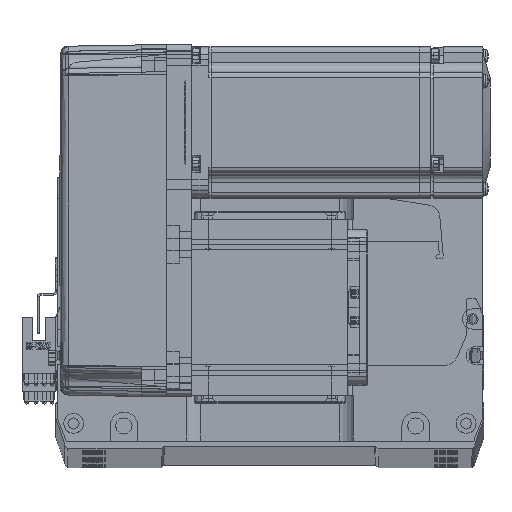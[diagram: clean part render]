
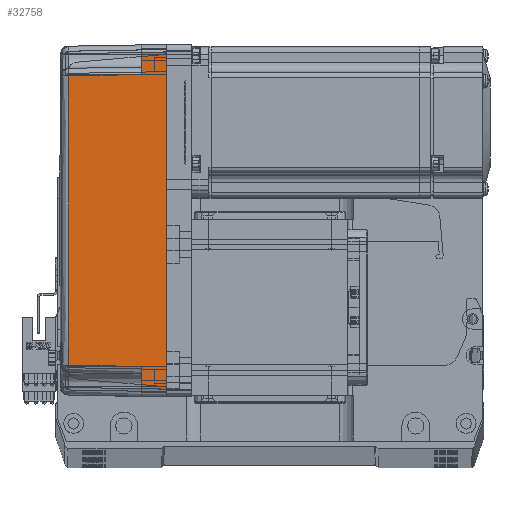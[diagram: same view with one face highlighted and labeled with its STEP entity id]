
A CAD part, top view. The second image highlights one B-rep face of the part: STEP entity #32758.
In plain terms, the highlighted planar face has unit normal (-0.018, 0, 1) as drawn and (0, 1, 0.017) by its records, which use the part's own axes.
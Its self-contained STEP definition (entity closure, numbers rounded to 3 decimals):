
#3345 = ORIENTED_EDGE ( 'NONE', *, *, #25165, .T. ) ;
#3700 = LINE ( 'NONE', #42712, #20328 ) ;
#5148 = DIRECTION ( 'NONE',  ( -0.017, -0.017, 1. ) ) ;
#5176 = CARTESIAN_POINT ( 'NONE',  ( 58., 35.825, 10. ) ) ;
#6605 = PLANE ( 'NONE',  #68084 ) ;
#8268 = B_SPLINE_CURVE_WITH_KNOTS ( 'NONE', 3,
 ( #73212, #48809, #14227, #37987 ),
 .UNSPECIFIED., .F., .F.,
 ( 4, 4 ),
 ( 0., 1. ),
 .UNSPECIFIED. ) ;
#8873 = EDGE_LOOP ( 'NONE', ( #3345, #42538, #64595, #26320, #39875, #65071, #28899, #18085 ) ) ;
#11654 = LINE ( 'NONE', #38480, #57750 ) ;
#12622 = EDGE_CURVE ( 'NONE', #64589, #55635, #11654, .T. ) ;
#14227 = CARTESIAN_POINT ( 'NONE',  ( 19.165, 35.316, 39.181 ) ) ;
#14342 = CARTESIAN_POINT ( 'NONE',  ( 70., 35.825, 10. ) ) ;
#14378 = FACE_OUTER_BOUND ( 'NONE', #8873, .T. ) ;
#14812 = VECTOR ( 'NONE', #54973, 1000. ) ;
#16730 = VECTOR ( 'NONE', #5148, 1000. ) ;
#17638 = LINE ( 'NONE', #75728, #16730 ) ;
#17791 = VECTOR ( 'NONE', #47851, 1000. ) ;
#18085 = ORIENTED_EDGE ( 'NONE', *, *, #30427, .F. ) ;
#18233 = EDGE_CURVE ( 'NONE', #37158, #40426, #17638, .T. ) ;
#18256 = CARTESIAN_POINT ( 'NONE',  ( 70., 36., 0. ) ) ;
#19115 = CARTESIAN_POINT ( 'NONE',  ( -66.826, 35.825, 10. ) ) ;
#19819 = VERTEX_POINT ( 'NONE', #66847 ) ;
#20328 = VECTOR ( 'NONE', #42196, 1000. ) ;
#25165 = EDGE_CURVE ( 'NONE', #19819, #45759, #44643, .T. ) ;
#26320 = ORIENTED_EDGE ( 'NONE', *, *, #50767, .T. ) ;
#28899 = ORIENTED_EDGE ( 'NONE', *, *, #18233, .F. ) ;
#29361 = DIRECTION ( 'NONE',  ( 0., -0.017, 1. ) ) ;
#29547 = EDGE_CURVE ( 'NONE', #75620, #40426, #61801, .T. ) ;
#30427 = EDGE_CURVE ( 'NONE', #19819, #37158, #3700, .T. ) ;
#30521 = LINE ( 'NONE', #31264, #14812 ) ;
#31264 = CARTESIAN_POINT ( 'NONE',  ( 57.495, 35.32, 38.985 ) ) ;
#31332 = CARTESIAN_POINT ( 'NONE',  ( -58., 35.825, 10. ) ) ;
#32758 = ADVANCED_FACE ( 'NONE', ( #14378 ), #6605, .T. ) ;
#33448 = CARTESIAN_POINT ( 'NONE',  ( -57.495, 35.32, 38.985 ) ) ;
#37158 = VERTEX_POINT ( 'NONE', #44306 ) ;
#37987 = CARTESIAN_POINT ( 'NONE',  ( 57.495, 35.32, 38.985 ) ) ;
#38480 = CARTESIAN_POINT ( 'NONE',  ( -58., 35.825, 10. ) ) ;
#39626 = VERTEX_POINT ( 'NONE', #68365 ) ;
#39875 = ORIENTED_EDGE ( 'NONE', *, *, #43941, .T. ) ;
#40426 = VERTEX_POINT ( 'NONE', #74897 ) ;
#40872 = LINE ( 'NONE', #40940, #17791 ) ;
#40940 = CARTESIAN_POINT ( 'NONE',  ( 70., 35.825, 10. ) ) ;
#42196 = DIRECTION ( 'NONE',  ( 1., 0., 0. ) ) ;
#42538 = ORIENTED_EDGE ( 'NONE', *, *, #56663, .T. ) ;
#42712 = CARTESIAN_POINT ( 'NONE',  ( 0., 36., 0. ) ) ;
#43941 = EDGE_CURVE ( 'NONE', #39626, #75620, #30521, .T. ) ;
#44306 = CARTESIAN_POINT ( 'NONE',  ( 67., 36., 0. ) ) ;
#44643 = LINE ( 'NONE', #58735, #66650 ) ;
#45759 = VERTEX_POINT ( 'NONE', #19115 ) ;
#47385 = DIRECTION ( 'NONE',  ( 0., 1., 0.017 ) ) ;
#47851 = DIRECTION ( 'NONE',  ( 1., 0., 0. ) ) ;
#48809 = CARTESIAN_POINT ( 'NONE',  ( -19.165, 35.316, 39.181 ) ) ;
#50767 = EDGE_CURVE ( 'NONE', #55635, #39626, #8268, .T. ) ;
#54973 = DIRECTION ( 'NONE',  ( 0.017, 0.017, -1. ) ) ;
#55635 = VERTEX_POINT ( 'NONE', #33448 ) ;
#56189 = DIRECTION ( 'NONE',  ( 0.017, -0.017, 1. ) ) ;
#56288 = VECTOR ( 'NONE', #67386, 1000. ) ;
#56663 = EDGE_CURVE ( 'NONE', #45759, #64589, #40872, .T. ) ;
#57750 = VECTOR ( 'NONE', #56189, 1000. ) ;
#58735 = CARTESIAN_POINT ( 'NONE',  ( -67., 36., 0. ) ) ;
#61801 = LINE ( 'NONE', #14342, #56288 ) ;
#64589 = VERTEX_POINT ( 'NONE', #31332 ) ;
#64595 = ORIENTED_EDGE ( 'NONE', *, *, #12622, .T. ) ;
#65071 = ORIENTED_EDGE ( 'NONE', *, *, #29547, .T. ) ;
#66650 = VECTOR ( 'NONE', #70342, 1000. ) ;
#66847 = CARTESIAN_POINT ( 'NONE',  ( -67., 36., 0. ) ) ;
#67386 = DIRECTION ( 'NONE',  ( 1., 0., 0. ) ) ;
#68084 = AXIS2_PLACEMENT_3D ( 'NONE', #18256, #47385, #29361 ) ;
#68365 = CARTESIAN_POINT ( 'NONE',  ( 57.495, 35.32, 38.985 ) ) ;
#70342 = DIRECTION ( 'NONE',  ( 0.017, -0.017, 1. ) ) ;
#73212 = CARTESIAN_POINT ( 'NONE',  ( -57.495, 35.32, 38.985 ) ) ;
#74897 = CARTESIAN_POINT ( 'NONE',  ( 66.826, 35.825, 10. ) ) ;
#75620 = VERTEX_POINT ( 'NONE', #5176 ) ;
#75728 = CARTESIAN_POINT ( 'NONE',  ( 67.001, 36.001, -0.052 ) ) ;
